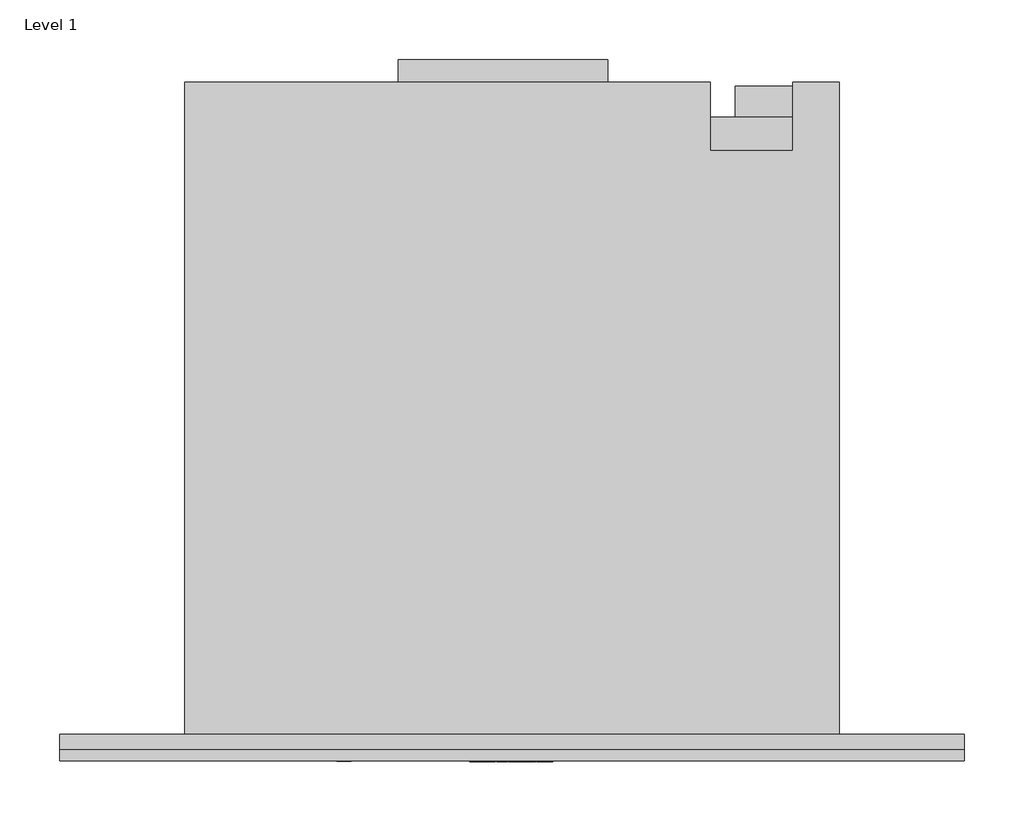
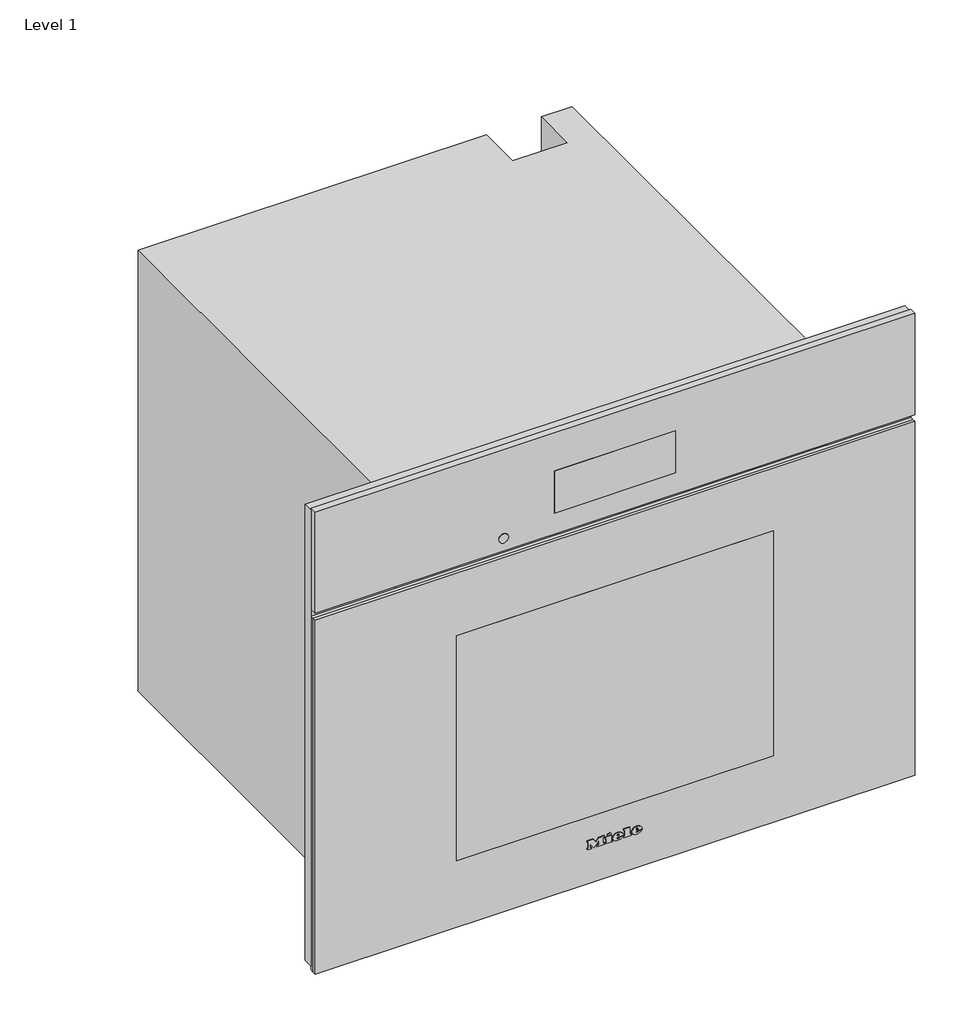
# One storey: 1 proxy.
"""IFC4 building model written with IfcOpenShell, lengths in millimetres."""

from ifc_helpers import new_model, si_unit, origin, place, context, project, spatial, transform, mapped, element, save
from components import specialty_equipment_e7a922d9

model = new_model("IFC4")

# Units and contexts
model_context = context("Model", 3, world=origin())
ifc_project = project(units=[si_unit("LENGTHUNIT", "METRE", prefix="MILLI")], contexts=[model_context])

# Site, building, storey
site = spatial("IfcSite", under=ifc_project)
building = spatial("IfcBuilding", under=site)
storey = spatial("IfcBuildingStorey", under=building, Name="Level 1", Elevation=0.0)

# Proxy
placement = place(None, origin())
specialty_equipment_shape = specialty_equipment_e7a922d9(model_context)
element("IfcBuildingElementProxy", 1, Name="11877040_USA_DGC7880X_GRGR : 23788073_USA_11877040_DGC7880X_GRGR", ObjectType="11877040_USA_DGC7880X_GRGR : 23788073_USA_11877040_DGC7880X_GRGR", at=placement, inside=storey, context=model_context, shape_type="MappedRepresentation", body=[
    mapped(specialty_equipment_shape, transform((0.0, 0.0, 0.0), x_axis=(1.0, 0.0, 0.0), y_axis=(0.0, 1.0, 0.0), z_axis=(0.0, 0.0, 1.0))),
])

save(model, "model.ifc")
